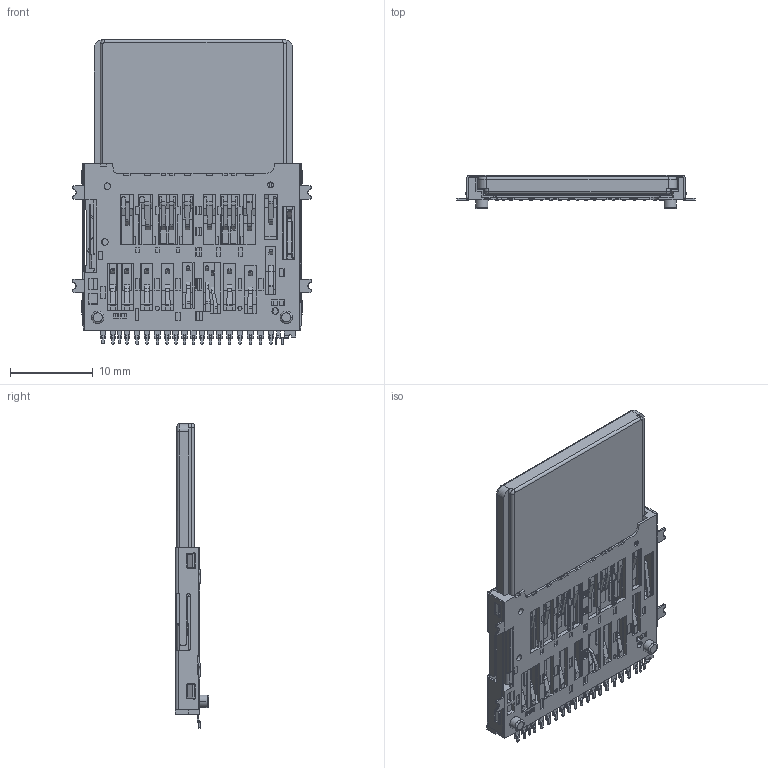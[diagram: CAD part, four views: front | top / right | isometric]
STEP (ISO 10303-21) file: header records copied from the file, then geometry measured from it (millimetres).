
FILE_DESCRIPTION((''),'2;1');
FILE_NAME('SD7_0_NO_PUSH_H3_0_SMT20230901_ASM','2024-07-08T13:46:39',('Administrator'),(''),'CREO PARAMETRIC BY PTC INC, 2020053','CREO PARAMETRIC BY PTC INC, 2020053','');
FILE_SCHEMA(('AUTOMOTIVE_DESIGN { 1 0 10303 214 1 1 1 1 }'));
Products named in the file (24): NONE-13629; _1_2_0001; NONE-13874; NONE-14004; NONE-14127; NONE-14238; NONE-14350; NONE-14468; NONE-37317; NONE-37426; NONE-37543; _1_1_0001; NONE-37775; NONE-37904; NONE-38014; NONE-60949; _10001; NONE-61192; NONE-61304; NONE-61423; NONE-61537; NONE-61657; SD7_0_NO_PUSH_H3_0_SMT2023090_1_ASM; SD7_0_NO_PUSH_H3_0_SMT20230901_ASM
Assembly tree (23 placements, depth 3):
  SD7_0_NO_PUSH_H3_0_SMT20230901_ASM
    SD7_0_NO_PUSH_H3_0_SMT2023090_1_ASM
      NONE-13629
      _1_2_0001
      NONE-13874
      NONE-14004
      NONE-14127
      NONE-14238
      NONE-14350
      NONE-14468
      NONE-37317
      NONE-37426
      NONE-37543
      _1_1_0001
      NONE-37775
      NONE-37904
      NONE-38014
      NONE-60949
      _10001
      NONE-61192
      NONE-61304
      NONE-61423
      NONE-61537
      NONE-61657
Bounding box: 28.85 x 4.03 x 36.88 mm (x, y, z)
Volume: 1847.3 mm3; surface area: 3707.9 mm2
Topology: 22 solids, 22 shells, 2270 faces, 5990 edges, 3804 vertices
Faces by surface type: plane 1741, cylinder 451, bspline 43, sphere 16, torus 10, cone 9
Entity records: 71938 total; most frequent: CARTESIAN_POINT 14324, ORIENTED_EDGE 11948, DIRECTION 11164, EDGE_CURVE 5974, VECTOR 4974, LINE 4974, VERTEX_POINT 3804, AXIS2_PLACEMENT_3D 3095
